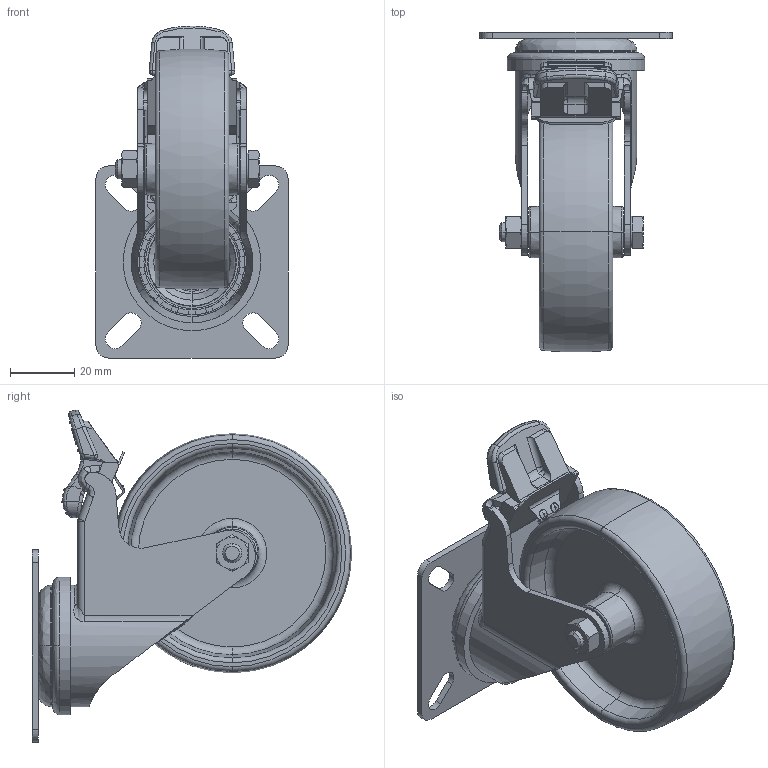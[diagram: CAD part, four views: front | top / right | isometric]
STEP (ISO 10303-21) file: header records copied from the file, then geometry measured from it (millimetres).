
FILE_DESCRIPTION (( 'STEP AP214' ), '1' );
FILE_NAME ('LPXA-PO_76G-FI_754980-214.step', '2013-04-02T12:52:29', ( 'Matthias Senn' ), ( 'Blickle Räder+Rollen' ), 'SwSTEP 2.0', 'SolidWorks 2010', '' );
FILE_SCHEMA (( 'AUTOMOTIVE_DESIGN' ));
Length unit declared in the file: millimetre
Products named in the file (5): AM_LPA_06x34_D8; GH-LPXA_075-FI_G15; PO_G15_PO_76_8G_299982; PO-G-R_G15_PO_76_8G_299982; LPXA-PO_76G-FI_754980-214
Assembly tree (4 placements, depth 3):
  LPXA-PO_76G-FI_754980-214
    GH-LPXA_075-FI_G15
    PO_G15_PO_76_8G_299982
      PO-G-R_G15_PO_76_8G_299982
    AM_LPA_06x34_D8
Bounding box: 60 x 99.94 x 103.72 mm (x, y, z)
Volume: 85133.7 mm3; surface area: 45163 mm2
Topology: 3 solids, 3 shells, 1469 faces, 3939 edges, 2522 vertices
Faces by surface type: plane 645, bspline 487, cylinder 264, cone 51, torus 22
Entity records: 89428 total; most frequent: CARTESIAN_POINT 40562, ORIENTED_EDGE 7810, DIRECTION 5142, EDGE_CURVE 3905, VERTEX_POINT 2522, LINE 1958, VECTOR 1958, AXIS2_PLACEMENT_3D 1592
